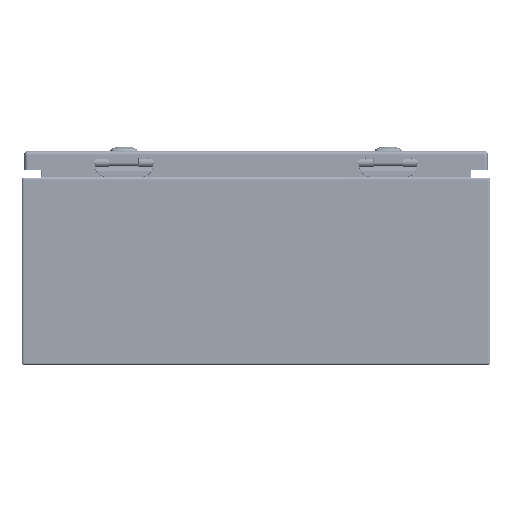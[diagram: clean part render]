
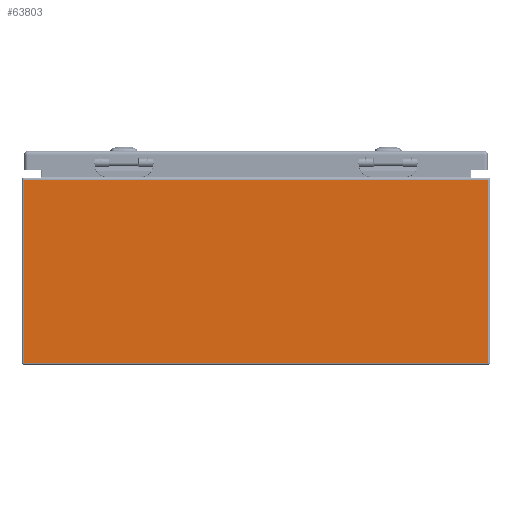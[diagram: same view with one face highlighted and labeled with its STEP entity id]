
A CAD part, left-side view. The second image highlights one B-rep face of the part: STEP entity #63803.
In plain terms, the highlighted planar face has unit normal (-1, 0, 0).
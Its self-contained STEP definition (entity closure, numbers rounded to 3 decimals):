
#6077=LINE('',#90080,#10043);
#6088=LINE('',#90121,#10054);
#6092=LINE('',#90136,#10058);
#6093=LINE('',#90137,#10059);
#10043=VECTOR('',#74563,0.394);
#10054=VECTOR('',#74612,0.394);
#10058=VECTOR('',#74630,0.394);
#10059=VECTOR('',#74631,0.394);
#15067=FACE_OUTER_BOUND('',#19059,.T.);
#19059=EDGE_LOOP('',(#42494,#42495,#42496,#42497));
#25743=VERTEX_POINT('',#90073);
#25744=VERTEX_POINT('',#90078);
#25755=VERTEX_POINT('',#90120);
#25759=VERTEX_POINT('',#90135);
#32165=EDGE_CURVE('',#25744,#25743,#6077,.T.);
#32185=EDGE_CURVE('',#25743,#25755,#6088,.T.);
#32193=EDGE_CURVE('',#25759,#25744,#6092,.T.);
#32194=EDGE_CURVE('',#25759,#25755,#6093,.T.);
#42494=ORIENTED_EDGE('',*,*,#32165,.F.);
#42495=ORIENTED_EDGE('',*,*,#32193,.F.);
#42496=ORIENTED_EDGE('',*,*,#32194,.T.);
#42497=ORIENTED_EDGE('',*,*,#32185,.F.);
#62424=PLANE('',#68693);
#63803=ADVANCED_FACE('',(#15067),#62424,.F.);
#68693=AXIS2_PLACEMENT_3D('',#90134,#74628,#74629);
#74563=DIRECTION('',(0.,-1.,0.));
#74612=DIRECTION('',(0.,0.,-1.));
#74628=DIRECTION('center_axis',(1.,0.,0.));
#74629=DIRECTION('ref_axis',(0.,0.,-1.));
#74630=DIRECTION('',(0.,0.,1.));
#74631=DIRECTION('',(0.,-1.,0.));
#90073=CARTESIAN_POINT('',(-10.,-9.916,7.916));
#90078=CARTESIAN_POINT('',(-10.,9.916,7.916));
#90080=CARTESIAN_POINT('',(-10.,-4.979,7.916));
#90120=CARTESIAN_POINT('',(-10.,-9.916,0.084));
#90121=CARTESIAN_POINT('',(-10.,-9.916,4.));
#90134=CARTESIAN_POINT('Origin',(-10.,0.,4.));
#90135=CARTESIAN_POINT('',(-10.,9.916,0.084));
#90136=CARTESIAN_POINT('',(-10.,9.916,4.));
#90137=CARTESIAN_POINT('',(-10.,5.,0.084));
